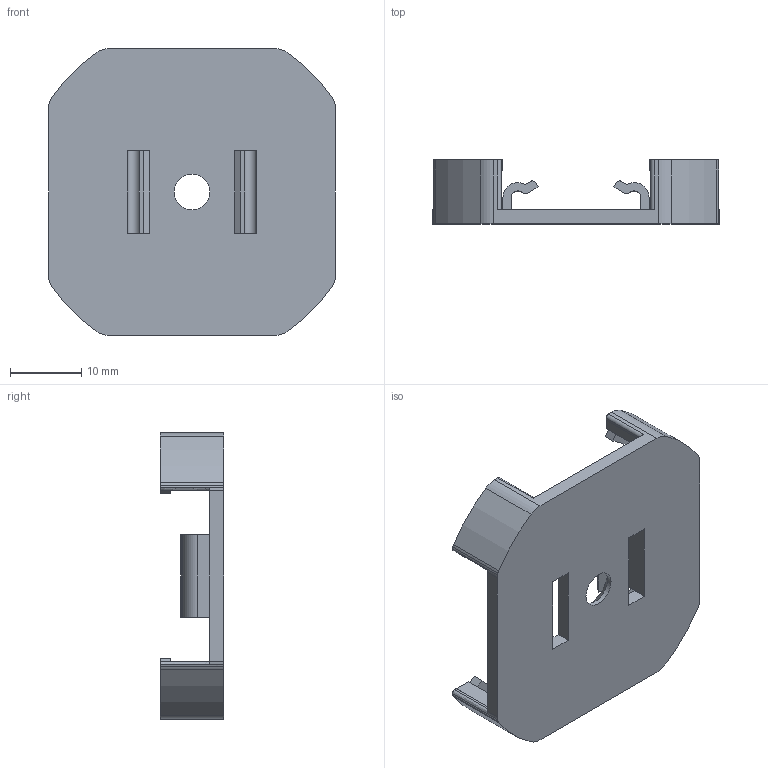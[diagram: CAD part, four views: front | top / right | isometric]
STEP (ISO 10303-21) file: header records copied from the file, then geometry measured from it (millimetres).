
FILE_DESCRIPTION (( 'STEP AP203' ), '1' );
FILE_NAME ('DiGi Module XT3 & 6 - Clip.STEP', '2025-08-21T06:45:18', ( '' ), ( '' ), 'SwSTEP 2.0', 'SolidWorks 2025', '' );
FILE_SCHEMA (( 'CONFIG_CONTROL_DESIGN' ));
Length unit declared in the file: millimetre
Products named in the file (1): DiGi Module XT3 & 6 - Clip
Bounding box: 40.31 x 9 x 40.31 mm (x, y, z)
Volume: 4008.9 mm3; surface area: 4491.7 mm2
Topology: 1 solids, 1 shells, 118 faces, 335 edges, 219 vertices
Faces by surface type: cylinder 53, plane 52, bspline 12, cone 1
Full cylindrical faces by diameter (mm): 5 x1
Entity records: 4497 total; most frequent: CARTESIAN_POINT 1351, ORIENTED_EDGE 666, DIRECTION 626, EDGE_CURVE 333, VERTEX_POINT 219, AXIS2_PLACEMENT_3D 214, LINE 198, VECTOR 198
